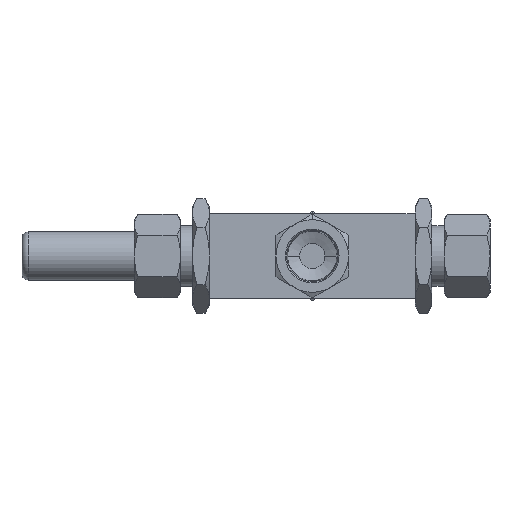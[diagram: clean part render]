
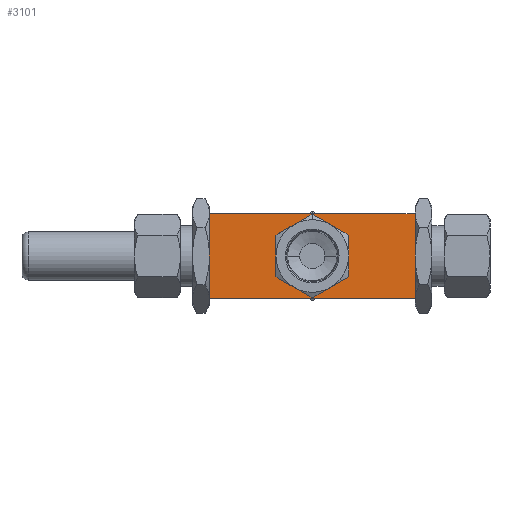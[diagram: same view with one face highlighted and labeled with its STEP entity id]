
A CAD part, front view. The second image highlights one B-rep face of the part: STEP entity #3101.
In plain terms, the highlighted planar face has unit normal (0, -1, 0).
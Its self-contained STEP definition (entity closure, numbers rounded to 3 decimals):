
#66 = CARTESIAN_POINT ( 'NONE',  ( 42.5, -32.5, 17.5 ) ) ;
#108 = DIRECTION ( 'NONE',  ( 0., -1., 0. ) ) ;
#263 = DIRECTION ( 'NONE',  ( 0., -1., 0. ) ) ;
#312 = EDGE_LOOP ( 'NONE', ( #6511, #2875, #6283, #643 ) ) ;
#318 = LINE ( 'NONE', #5442, #3393 ) ;
#358 = EDGE_CURVE ( 'NONE', #3429, #3772, #3001, .T. ) ;
#384 = AXIS2_PLACEMENT_3D ( 'NONE', #6357, #108, #5245 ) ;
#409 = EDGE_LOOP ( 'NONE', ( #4845, #3470, #4553, #3390, #812, #5772, #4048 ) ) ;
#428 = VERTEX_POINT ( 'NONE', #2290 ) ;
#474 = DIRECTION ( 'NONE',  ( 0., 0., -1. ) ) ;
#598 = CARTESIAN_POINT ( 'NONE',  ( 0., -32.5, 0. ) ) ;
#643 = ORIENTED_EDGE ( 'NONE', *, *, #5759, .T. ) ;
#652 = EDGE_CURVE ( 'NONE', #3434, #691, #1538, .T. ) ;
#691 = VERTEX_POINT ( 'NONE', #2612 ) ;
#727 = CIRCLE ( 'NONE', #2646, 15. ) ;
#812 = ORIENTED_EDGE ( 'NONE', *, *, #1994, .F. ) ;
#851 = CARTESIAN_POINT ( 'NONE',  ( 7.5, -32.5, 12.99 ) ) ;
#1406 = PLANE ( 'NONE',  #3113 ) ;
#1467 = DIRECTION ( 'NONE',  ( 0., 0., 1. ) ) ;
#1538 = LINE ( 'NONE', #3592, #4936 ) ;
#1978 = DIRECTION ( 'NONE',  ( 0., 0., -1. ) ) ;
#1994 = EDGE_CURVE ( 'NONE', #5177, #3494, #2168, .T. ) ;
#2168 = CIRCLE ( 'NONE', #5273, 15. ) ;
#2271 = CARTESIAN_POINT ( 'NONE',  ( -42.5, -32.5, -17.5 ) ) ;
#2290 = CARTESIAN_POINT ( 'NONE',  ( -7.5, -32.5, 12.99 ) ) ;
#2305 = CARTESIAN_POINT ( 'NONE',  ( -7.5, -32.5, -12.99 ) ) ;
#2317 = DIRECTION ( 'NONE',  ( 0., 0., -1. ) ) ;
#2352 = VERTEX_POINT ( 'NONE', #4986 ) ;
#2479 = DIRECTION ( 'NONE',  ( 0., -1., 0. ) ) ;
#2498 = CARTESIAN_POINT ( 'NONE',  ( 15., -32.5, 0. ) ) ;
#2553 = VERTEX_POINT ( 'NONE', #2271 ) ;
#2612 = CARTESIAN_POINT ( 'NONE',  ( 42.5, -32.5, 17.5 ) ) ;
#2646 = AXIS2_PLACEMENT_3D ( 'NONE', #5551, #2479, #1978 ) ;
#2715 = DIRECTION ( 'NONE',  ( 0., 0., -1. ) ) ;
#2840 = VERTEX_POINT ( 'NONE', #6174 ) ;
#2875 = ORIENTED_EDGE ( 'NONE', *, *, #4418, .F. ) ;
#2986 = CARTESIAN_POINT ( 'NONE',  ( 0., -32.5, 0. ) ) ;
#3001 = CIRCLE ( 'NONE', #5349, 15. ) ;
#3044 = CARTESIAN_POINT ( 'NONE',  ( 0., -32.5, 0. ) ) ;
#3101 = ADVANCED_FACE ( 'NONE', ( #3422, #6003 ), #1406, .F. ) ;
#3113 = AXIS2_PLACEMENT_3D ( 'NONE', #4028, #5486, #1467 ) ;
#3124 = DIRECTION ( 'NONE',  ( 0., 0., -1. ) ) ;
#3296 = CIRCLE ( 'NONE', #384, 15. ) ;
#3390 = ORIENTED_EDGE ( 'NONE', *, *, #3485, .F. ) ;
#3393 = VECTOR ( 'NONE', #4954, 1000. ) ;
#3422 = FACE_OUTER_BOUND ( 'NONE', #312, .T. ) ;
#3429 = VERTEX_POINT ( 'NONE', #3961 ) ;
#3434 = VERTEX_POINT ( 'NONE', #4588 ) ;
#3470 = ORIENTED_EDGE ( 'NONE', *, *, #4753, .F. ) ;
#3485 = EDGE_CURVE ( 'NONE', #3494, #3429, #3531, .T. ) ;
#3494 = VERTEX_POINT ( 'NONE', #6187 ) ;
#3519 = VECTOR ( 'NONE', #3124, 1000. ) ;
#3531 = CIRCLE ( 'NONE', #4491, 15. ) ;
#3592 = CARTESIAN_POINT ( 'NONE',  ( -42.5, -32.5, 17.5 ) ) ;
#3641 = DIRECTION ( 'NONE',  ( 0., -1., 0. ) ) ;
#3720 = AXIS2_PLACEMENT_3D ( 'NONE', #4549, #3641, #474 ) ;
#3746 = EDGE_CURVE ( 'NONE', #2553, #2840, #318, .T. ) ;
#3772 = VERTEX_POINT ( 'NONE', #2498 ) ;
#3775 = EDGE_CURVE ( 'NONE', #428, #2352, #4135, .T. ) ;
#3961 = CARTESIAN_POINT ( 'NONE',  ( 7.5, -32.5, -12.99 ) ) ;
#4028 = CARTESIAN_POINT ( 'NONE',  ( -42.5, -32.5, 17.5 ) ) ;
#4048 = ORIENTED_EDGE ( 'NONE', *, *, #3775, .F. ) ;
#4069 = LINE ( 'NONE', #6543, #3519 ) ;
#4135 = CIRCLE ( 'NONE', #3720, 15. ) ;
#4196 = DIRECTION ( 'NONE',  ( 0., -1., 0. ) ) ;
#4418 = EDGE_CURVE ( 'NONE', #691, #2840, #4772, .T. ) ;
#4491 = AXIS2_PLACEMENT_3D ( 'NONE', #3044, #5210, #5083 ) ;
#4549 = CARTESIAN_POINT ( 'NONE',  ( 0., -32.5, 0. ) ) ;
#4553 = ORIENTED_EDGE ( 'NONE', *, *, #358, .F. ) ;
#4588 = CARTESIAN_POINT ( 'NONE',  ( -42.5, -32.5, 17.5 ) ) ;
#4675 = VECTOR ( 'NONE', #5808, 1000. ) ;
#4753 = EDGE_CURVE ( 'NONE', #3772, #5392, #6602, .T. ) ;
#4772 = LINE ( 'NONE', #66, #4675 ) ;
#4845 = ORIENTED_EDGE ( 'NONE', *, *, #5239, .F. ) ;
#4936 = VECTOR ( 'NONE', #6163, 1000. ) ;
#4954 = DIRECTION ( 'NONE',  ( 1., 0., 0. ) ) ;
#4986 = CARTESIAN_POINT ( 'NONE',  ( -15., -32.5, 0. ) ) ;
#5025 = DIRECTION ( 'NONE',  ( 0., 0., -1. ) ) ;
#5083 = DIRECTION ( 'NONE',  ( 0., 0., -1. ) ) ;
#5177 = VERTEX_POINT ( 'NONE', #2305 ) ;
#5210 = DIRECTION ( 'NONE',  ( 0., -1., 0. ) ) ;
#5239 = EDGE_CURVE ( 'NONE', #5392, #428, #3296, .T. ) ;
#5245 = DIRECTION ( 'NONE',  ( 0., 0., -1. ) ) ;
#5273 = AXIS2_PLACEMENT_3D ( 'NONE', #2986, #6062, #5025 ) ;
#5349 = AXIS2_PLACEMENT_3D ( 'NONE', #5364, #263, #2317 ) ;
#5364 = CARTESIAN_POINT ( 'NONE',  ( 0., -32.5, 0. ) ) ;
#5392 = VERTEX_POINT ( 'NONE', #851 ) ;
#5442 = CARTESIAN_POINT ( 'NONE',  ( -42.5, -32.5, -17.5 ) ) ;
#5486 = DIRECTION ( 'NONE',  ( 0., 1., 0. ) ) ;
#5551 = CARTESIAN_POINT ( 'NONE',  ( 0., -32.5, 0. ) ) ;
#5759 = EDGE_CURVE ( 'NONE', #3434, #2553, #4069, .T. ) ;
#5772 = ORIENTED_EDGE ( 'NONE', *, *, #6169, .F. ) ;
#5808 = DIRECTION ( 'NONE',  ( 0., 0., -1. ) ) ;
#5969 = AXIS2_PLACEMENT_3D ( 'NONE', #598, #4196, #2715 ) ;
#6003 = FACE_BOUND ( 'NONE', #409, .T. ) ;
#6062 = DIRECTION ( 'NONE',  ( 0., -1., 0. ) ) ;
#6163 = DIRECTION ( 'NONE',  ( 1., 0., 0. ) ) ;
#6169 = EDGE_CURVE ( 'NONE', #2352, #5177, #727, .T. ) ;
#6174 = CARTESIAN_POINT ( 'NONE',  ( 42.5, -32.5, -17.5 ) ) ;
#6187 = CARTESIAN_POINT ( 'NONE',  ( 0., -32.5, -15. ) ) ;
#6283 = ORIENTED_EDGE ( 'NONE', *, *, #652, .F. ) ;
#6357 = CARTESIAN_POINT ( 'NONE',  ( 0., -32.5, 0. ) ) ;
#6511 = ORIENTED_EDGE ( 'NONE', *, *, #3746, .T. ) ;
#6543 = CARTESIAN_POINT ( 'NONE',  ( -42.5, -32.5, 17.5 ) ) ;
#6602 = CIRCLE ( 'NONE', #5969, 15. ) ;
